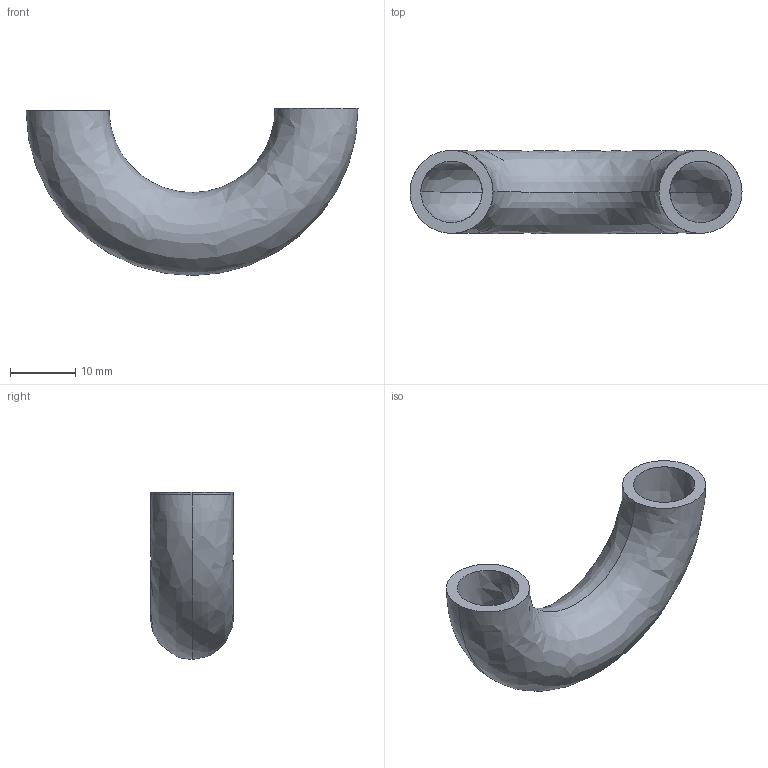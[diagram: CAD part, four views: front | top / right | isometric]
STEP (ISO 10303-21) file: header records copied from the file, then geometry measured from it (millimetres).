
FILE_DESCRIPTION (( 'STEP AP203' ), '1' );
FILE_NAME ('E2WU.50.STEP', '2018-04-30T18:28:40', ( 'vneprd' ), ( 'Microsoft' ), 'SwSTEP 2.0', 'SolidWorks 2014', '' );
FILE_SCHEMA (( 'CONFIG_CONTROL_DESIGN' ));
Length unit declared in the file: inch
Products named in the file (1): E2WU.50
Bounding box: 50.8 x 12.7 x 25.57 mm (x, y, z)
Volume: 3430 mm3; surface area: 4269.2 mm2
Topology: 1 solids, 1 shells, 10 faces, 22 edges, 14 vertices
Faces by surface type: bspline 8, plane 2
Entity records: 3167 total; most frequent: CARTESIAN_POINT 2901, ORIENTED_EDGE 44, DIRECTION 26, EDGE_CURVE 22, VERTEX_POINT 14, AXIS2_PLACEMENT_3D 13, EDGE_LOOP 12, B_SPLINE_CURVE_WITH_KNOTS 12
